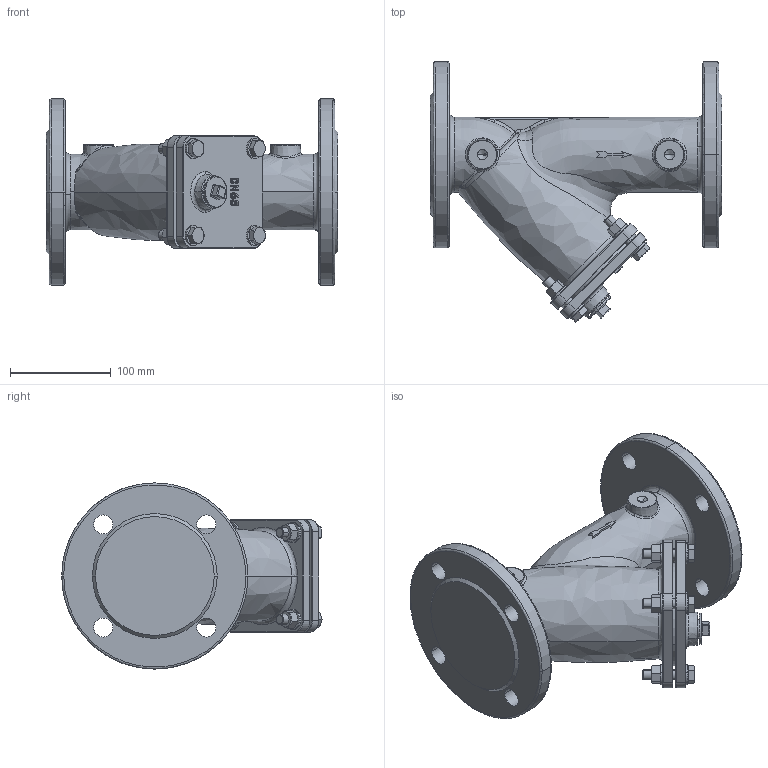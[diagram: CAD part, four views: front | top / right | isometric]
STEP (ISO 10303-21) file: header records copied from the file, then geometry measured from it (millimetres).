
FILE_DESCRIPTION (( 'STEP AP203' ), '1' );
FILE_NAME ('11.000C DN65.STEP', '2022-09-05T08:10:22', ( '' ), ( '' ), 'SwSTEP 2.0', 'SolidWorks 2017', '' );
FILE_SCHEMA (( 'CONFIG_CONTROL_DESIGN' ));
Products named in the file (1): 11.000C DN65
Bounding box: 290 x 258.9 x 185 mm (x, y, z)
Volume: 3049410.4 mm3; surface area: 263068.1 mm2
Topology: 1 solids, 8 shells, 559 faces, 1298 edges, 809 vertices
Faces by surface type: plane 195, cylinder 156, bspline 122, cone 86
Entity records: 50157 total; most frequent: CARTESIAN_POINT 38291, ORIENTED_EDGE 2576, DIRECTION 2194, EDGE_CURVE 1288, AXIS2_PLACEMENT_3D 866, VERTEX_POINT 809, EDGE_LOOP 647, ADVANCED_FACE 559
